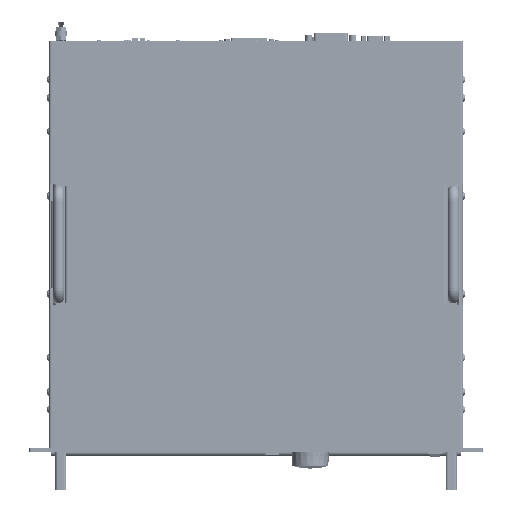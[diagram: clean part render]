
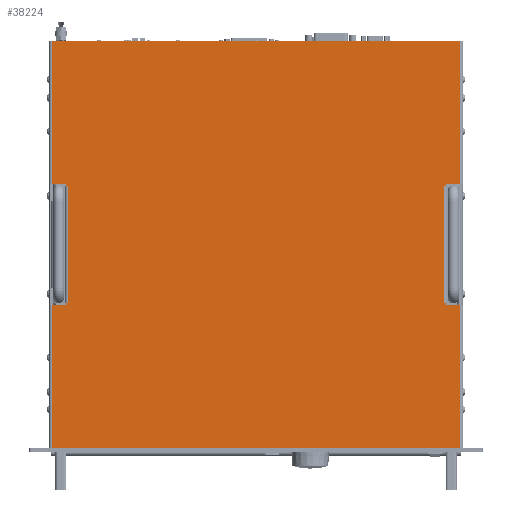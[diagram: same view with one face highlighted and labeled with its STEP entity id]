
A CAD part, top view. The second image highlights one B-rep face of the part: STEP entity #38224.
In plain terms, the highlighted planar face has unit normal (0, 0, 1).
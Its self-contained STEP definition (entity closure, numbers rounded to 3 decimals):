
#38224=ADVANCED_FACE('',(#85047),#85048,.F.);
#85047=FACE_OUTER_BOUND('',#170772,.T.);
#85048=PLANE('',#170773);
#170772=EDGE_LOOP('',(#281642,#281643,#281644,#281645,#281646,#281647,#281648,#281649,#281650,#281651,#281652,#281653,#281654,#281655,#281656,#281657,#281658,#281659,#281660,#281661));
#170773=AXIS2_PLACEMENT_3D('',#281662,#281663,#281664);
#281642=ORIENTED_EDGE('',*,*,#388275,.T.);
#281643=ORIENTED_EDGE('',*,*,#388295,.F.);
#281644=ORIENTED_EDGE('',*,*,#388296,.F.);
#281645=ORIENTED_EDGE('',*,*,#387939,.F.);
#281646=ORIENTED_EDGE('',*,*,#388261,.F.);
#281647=ORIENTED_EDGE('',*,*,#387924,.F.);
#281648=ORIENTED_EDGE('',*,*,#388250,.F.);
#281649=ORIENTED_EDGE('',*,*,#388297,.F.);
#281650=ORIENTED_EDGE('',*,*,#388293,.T.);
#281651=ORIENTED_EDGE('',*,*,#388288,.F.);
#281652=ORIENTED_EDGE('',*,*,#388285,.T.);
#281653=ORIENTED_EDGE('',*,*,#388298,.F.);
#281654=ORIENTED_EDGE('',*,*,#388226,.F.);
#281655=ORIENTED_EDGE('',*,*,#387914,.F.);
#281656=ORIENTED_EDGE('',*,*,#388215,.F.);
#281657=ORIENTED_EDGE('',*,*,#387934,.F.);
#281658=ORIENTED_EDGE('',*,*,#388299,.F.);
#281659=ORIENTED_EDGE('',*,*,#388300,.F.);
#281660=ORIENTED_EDGE('',*,*,#388272,.T.);
#281661=ORIENTED_EDGE('',*,*,#388280,.T.);
#281662=CARTESIAN_POINT('',(243.066,260.625,531.521));
#281663=DIRECTION('',(0.,0.,-1.0));
#281664=DIRECTION('',(1.0,0.,0.));
#387914=EDGE_CURVE('',#460557,#460559,#460560,.T.);
#387924=EDGE_CURVE('',#460575,#460577,#460578,.T.);
#387934=EDGE_CURVE('',#460593,#460595,#460596,.T.);
#387939=EDGE_CURVE('',#460602,#460604,#460605,.T.);
#388215=EDGE_CURVE('',#460595,#460557,#461035,.T.);
#388226=EDGE_CURVE('',#460559,#461050,#461051,.T.);
#388250=EDGE_CURVE('',#461083,#460575,#461085,.T.);
#388261=EDGE_CURVE('',#460577,#460602,#461100,.T.);
#388272=EDGE_CURVE('',#461111,#461114,#461116,.T.);
#388275=EDGE_CURVE('',#461121,#461118,#461122,.T.);
#388280=EDGE_CURVE('',#461114,#461121,#461127,.T.);
#388285=EDGE_CURVE('',#461133,#461131,#461134,.T.);
#388288=EDGE_CURVE('',#461133,#461137,#461138,.T.);
#388293=EDGE_CURVE('',#461143,#461137,#461145,.T.);
#388295=EDGE_CURVE('',#461147,#461118,#461148,.T.);
#388296=EDGE_CURVE('',#460604,#461147,#461149,.T.);
#388297=EDGE_CURVE('',#461143,#461083,#461150,.T.);
#388298=EDGE_CURVE('',#461050,#461131,#461151,.T.);
#388299=EDGE_CURVE('',#461152,#460593,#461153,.T.);
#388300=EDGE_CURVE('',#461111,#461152,#461154,.T.);
#460557=VERTEX_POINT('',#567790);
#460559=VERTEX_POINT('',#567792);
#460560=LINE('',#567793,#567794);
#460575=VERTEX_POINT('',#567812);
#460577=VERTEX_POINT('',#567814);
#460578=LINE('',#567815,#567816);
#460593=VERTEX_POINT('',#567834);
#460595=VERTEX_POINT('',#567836);
#460596=LINE('',#567837,#567838);
#460602=VERTEX_POINT('',#567845);
#460604=VERTEX_POINT('',#567847);
#460605=LINE('',#567848,#567849);
#461035=LINE('',#568400,#568401);
#461050=VERTEX_POINT('',#568421);
#461051=LINE('',#568422,#568423);
#461083=VERTEX_POINT('',#568469);
#461085=LINE('',#568472,#568473);
#461100=LINE('',#568493,#568494);
#461111=VERTEX_POINT('',#568509);
#461114=VERTEX_POINT('',#568513);
#461116=LINE('',#568515,#568516);
#461118=VERTEX_POINT('',#568518);
#461121=VERTEX_POINT('',#568522);
#461122=LINE('',#568523,#568524);
#461127=LINE('',#568529,#568530);
#461131=VERTEX_POINT('',#568535);
#461133=VERTEX_POINT('',#568538);
#461134=LINE('',#568539,#568540);
#461137=VERTEX_POINT('',#568543);
#461138=LINE('',#568544,#568545);
#461143=VERTEX_POINT('',#568550);
#461145=LINE('',#568553,#568554);
#461147=VERTEX_POINT('',#568556);
#461148=LINE('',#568557,#568558);
#461149=LINE('',#568559,#568560);
#461150=LINE('',#568561,#568562);
#461151=LINE('',#568563,#568564);
#461152=VERTEX_POINT('',#568565);
#461153=LINE('',#568566,#568567);
#461154=LINE('',#568568,#568569);
#567790=CARTESIAN_POINT('',(25.388,44.,531.521));
#567792=CARTESIAN_POINT('',(25.388,196.,531.521));
#567793=CARTESIAN_POINT('',(25.388,190.313,531.521));
#567794=VECTOR('',#659260,1.0);
#567812=CARTESIAN_POINT('',(25.388,325.25,531.521));
#567814=CARTESIAN_POINT('',(25.388,477.25,531.521));
#567815=CARTESIAN_POINT('',(25.388,330.938,531.521));
#567816=VECTOR('',#659276,1.0);
#567834=CARTESIAN_POINT('',(460.743,196.,531.521));
#567836=CARTESIAN_POINT('',(460.743,44.,531.521));
#567837=CARTESIAN_POINT('',(460.743,190.313,531.521));
#567838=VECTOR('',#659292,1.0);
#567845=CARTESIAN_POINT('',(460.743,477.25,531.521));
#567847=CARTESIAN_POINT('',(460.743,325.25,531.521));
#567848=CARTESIAN_POINT('',(460.743,330.938,531.521));
#567849=VECTOR('',#659300,1.0);
#568400=CARTESIAN_POINT('',(463.493,44.,531.521));
#568401=VECTOR('',#659686,1.0);
#568421=CARTESIAN_POINT('',(40.638,196.,531.521));
#568422=CARTESIAN_POINT('',(22.638,196.,531.521));
#568423=VECTOR('',#659704,1.0);
#568469=CARTESIAN_POINT('',(40.638,325.25,531.521));
#568472=CARTESIAN_POINT('',(40.638,325.25,531.521));
#568473=VECTOR('',#659732,1.0);
#568493=CARTESIAN_POINT('',(22.638,477.25,531.521));
#568494=VECTOR('',#659750,1.0);
#568509=CARTESIAN_POINT('',(445.493,198.,531.521));
#568513=CARTESIAN_POINT('',(443.743,198.,531.521));
#568515=CARTESIAN_POINT('',(344.359,198.,531.521));
#568516=VECTOR('',#659762,1.0);
#568518=CARTESIAN_POINT('',(445.493,323.25,531.521));
#568522=CARTESIAN_POINT('',(443.743,323.25,531.521));
#568523=CARTESIAN_POINT('',(344.359,323.25,531.521));
#568524=VECTOR('',#659764,1.0);
#568529=CARTESIAN_POINT('',(443.743,260.625,531.521));
#568530=VECTOR('',#659774,1.0);
#568535=CARTESIAN_POINT('',(40.638,198.,531.521));
#568538=CARTESIAN_POINT('',(42.388,198.,531.521));
#568539=CARTESIAN_POINT('',(141.772,198.,531.521));
#568540=VECTOR('',#659777,1.0);
#568543=CARTESIAN_POINT('',(42.388,323.25,531.521));
#568544=CARTESIAN_POINT('',(42.388,260.625,531.521));
#568545=VECTOR('',#659781,1.0);
#568550=CARTESIAN_POINT('',(40.638,323.25,531.521));
#568553=CARTESIAN_POINT('',(141.772,323.25,531.521));
#568554=VECTOR('',#659789,1.0);
#568556=CARTESIAN_POINT('',(445.493,325.25,531.521));
#568557=CARTESIAN_POINT('',(445.493,325.25,531.521));
#568558=VECTOR('',#659790,1.0);
#568559=CARTESIAN_POINT('',(463.493,325.25,531.521));
#568560=VECTOR('',#659791,1.0);
#568561=CARTESIAN_POINT('',(40.638,323.25,531.521));
#568562=VECTOR('',#659792,1.0);
#568563=CARTESIAN_POINT('',(40.638,196.,531.521));
#568564=VECTOR('',#659793,1.0);
#568565=CARTESIAN_POINT('',(445.493,196.,531.521));
#568566=CARTESIAN_POINT('',(445.493,196.,531.521));
#568567=VECTOR('',#659794,1.0);
#568568=CARTESIAN_POINT('',(445.493,198.,531.521));
#568569=VECTOR('',#659795,1.0);
#659260=DIRECTION('',(0.0,1.0,0.0));
#659276=DIRECTION('',(0.0,1.0,0.0));
#659292=DIRECTION('',(0.0,-1.0,0.0));
#659300=DIRECTION('',(0.0,-1.0,0.0));
#659686=DIRECTION('',(-1.0,0.0,0.0));
#659704=DIRECTION('',(1.0,0.0,0.0));
#659732=DIRECTION('',(-1.0,0.0,0.0));
#659750=DIRECTION('',(1.0,0.0,0.0));
#659762=DIRECTION('',(-1.0,0.0,0.0));
#659764=DIRECTION('',(1.0,0.0,0.0));
#659774=DIRECTION('',(0.0,1.0,0.0));
#659777=DIRECTION('',(-1.0,0.0,0.0));
#659781=DIRECTION('',(0.0,1.0,0.0));
#659789=DIRECTION('',(1.0,0.0,0.0));
#659790=DIRECTION('',(0.0,-1.0,0.0));
#659791=DIRECTION('',(-1.0,0.0,0.0));
#659792=DIRECTION('',(0.0,1.0,0.0));
#659793=DIRECTION('',(0.0,1.0,0.0));
#659794=DIRECTION('',(1.0,0.0,0.0));
#659795=DIRECTION('',(0.0,-1.0,0.0));
